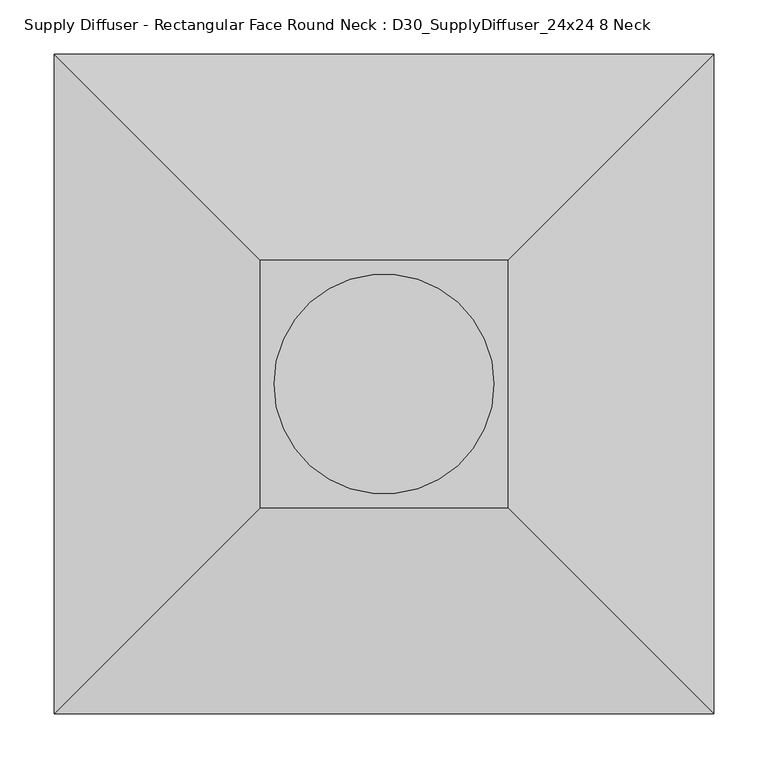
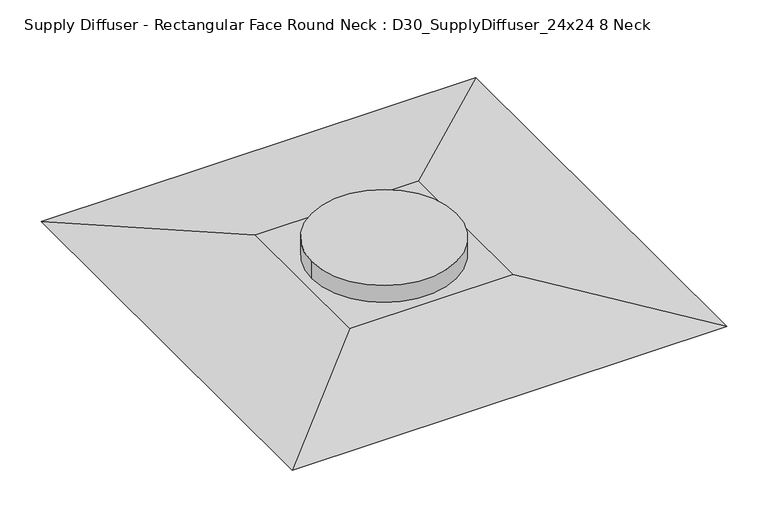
"""IFC4 building model written with IfcOpenShell, lengths in millimetres: air terminal geometry, Supply Diffuser - Rectangular Face Round Neck : D30_SupplyDiffuser_24x24 8 Neck."""

from ifc_helpers import new_model, si_unit, point, frame, origin, origin_2d, place, context, project, spatial, circle_curve, trimmed, segment, composite_curve, outline, extrude, faceted_brep, source, transform, mapped, element, save


def supply_diffuser_rectangular_face_round_neck_d30_6390248a(model_context):
    return source(origin(), model_context, "Body", "SolidModel", [
        faceted_brep([(114.3, 114.3, 28.575), (-114.3, 114.3, 28.575), (-114.3, -114.3, 28.575), (114.3, -114.3, 28.575), (304.8, 304.8, 0.0), (304.8, -304.8, 0.0), (-304.8, -304.8, 0.0), (-304.8, 304.8, 0.0)], [[[0, 1, 2, 3]], [[4, 5, 6, 7]], [[4, 7, 1, 0]], [[7, 6, 2, 1]], [[6, 5, 3, 2]], [[5, 4, 0, 3]]]),
        extrude(outline(composite_curve([segment(trimmed(circle_curve(origin_2d(), 101.6), [point((-101.6, 0.0))], [point((101.6, 0.0))], False, "CARTESIAN"), True, "CONTINUOUS"), segment(trimmed(circle_curve(origin_2d(), 101.6), [point((101.6, 0.0))], [point((-101.6, 0.0))], False, "CARTESIAN"), True, "CONTINUOUS")], self_intersect=False)), frame((0.0, 0.0, 28.575), z_axis=(0.0, 0.0, 1.0), x_axis=(1.0, 0.0, 0.0)), (0.0, 0.0, 1.0), 25.4),
    ])


if __name__ == "__main__":
    model = new_model("IFC4")
    model_context = context("Model", 3, world=origin())
    ifc_project = project(units=[si_unit("LENGTHUNIT", "METRE", prefix="MILLI")], contexts=[model_context])
    site = spatial("IfcSite", under=ifc_project)
    building = spatial("IfcBuilding", under=site)
    placement = place(None, origin())
    supply_diffuser_rectangular_face_round_neck_d30_shape = supply_diffuser_rectangular_face_round_neck_d30_6390248a(model_context)
    element("IfcAirTerminal", 1, ObjectType="Supply Diffuser - Rectangular Face Round Neck : D30_SupplyDiffuser_24x24 8 Neck", at=placement, inside=building, context=model_context, shape_type="MappedRepresentation", body=[
        mapped(supply_diffuser_rectangular_face_round_neck_d30_shape, transform((0.0, 0.0, 0.0), x_axis=(1.0, 0.0, 0.0), y_axis=(0.0, 1.0, 0.0), z_axis=(0.0, 0.0, 1.0))),
    ])
    save(model, "model.ifc")
